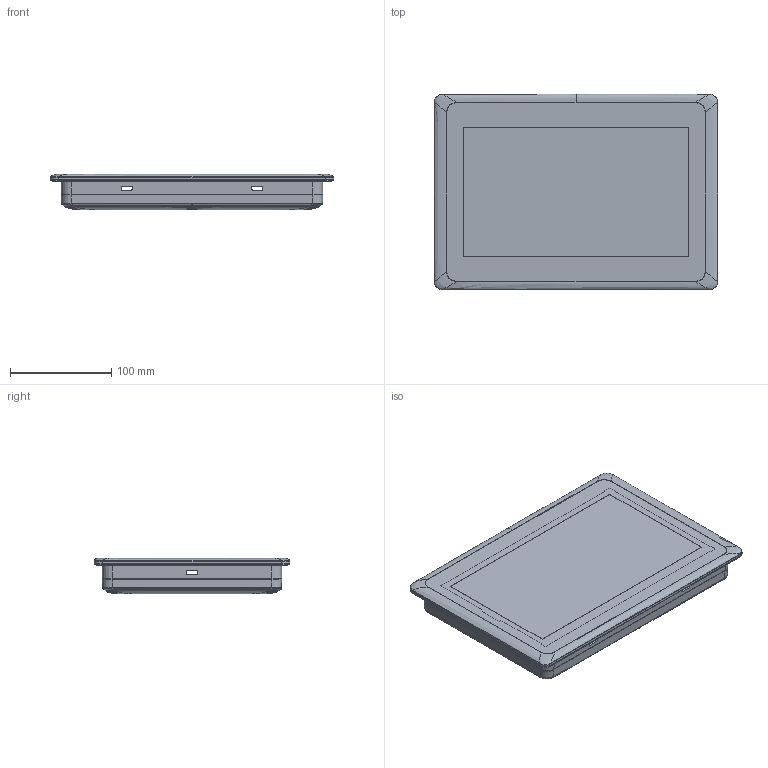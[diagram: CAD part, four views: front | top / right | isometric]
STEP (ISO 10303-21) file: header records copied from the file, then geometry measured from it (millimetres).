
FILE_DESCRIPTION((''),'2;1');
FILE_NAME('GL100E','2020-12-31T15:33:02',('Administrator'),(''),'CREO PARAMETRIC BY PTC INC, 2019164','CREO PARAMETRIC BY PTC INC, 2019164','');
FILE_SCHEMA(('CONFIG_CONTROL_DESIGN','SHAPE_APPEARANCE_LAYERS_GROUPS'));
Length unit declared in the file: millimetre
Products named in the file (1): GL100E
Bounding box: 280.26 x 193.26 x 35.5 mm (x, y, z)
Surface area: 210907 mm2 (no closed solid volume)
Topology: 0 solids, 16 shells, 842 faces, 2838 edges, 1989 vertices
Faces by surface type: plane 558, cylinder 170, bspline 66, cone 48
Entity records: 36151 total; most frequent: CARTESIAN_POINT 12195, ORIENTED_EDGE 4712, DIRECTION 4624, EDGE_CURVE 2838, VECTOR 2164, LINE 2164, VERTEX_POINT 1989, AXIS2_PLACEMENT_3D 1230
